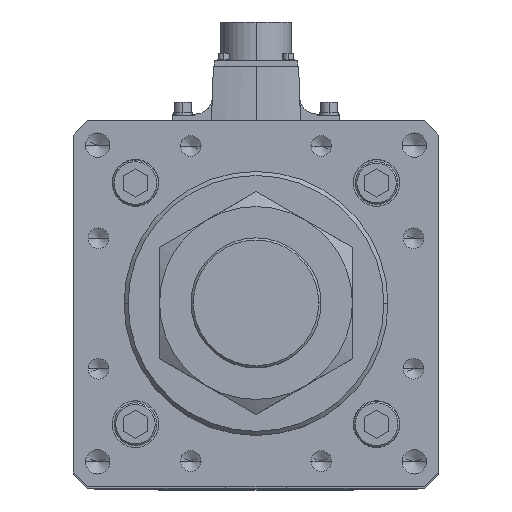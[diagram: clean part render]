
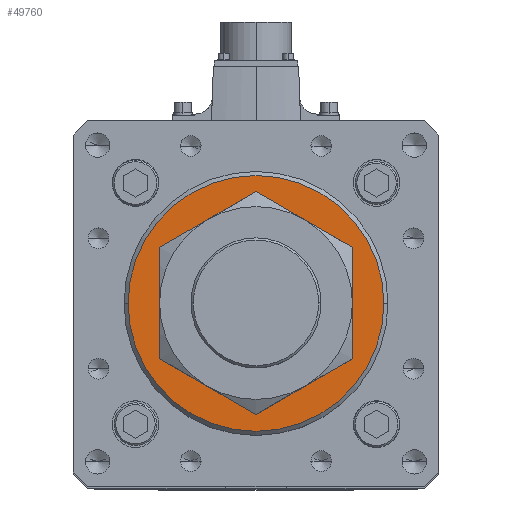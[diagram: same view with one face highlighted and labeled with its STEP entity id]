
A CAD part, top view. The second image highlights one B-rep face of the part: STEP entity #49760.
In plain terms, the highlighted planar face has unit normal (0, 0, 1).
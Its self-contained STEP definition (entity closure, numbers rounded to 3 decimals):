
#202 = PLANE ( 'NONE',  #14664 ) ;
#645 = CARTESIAN_POINT ( 'NONE',  ( 0., 0., 662. ) ) ;
#4162 = AXIS2_PLACEMENT_3D ( 'NONE', #34482, #12843, #26123 ) ;
#4764 = EDGE_LOOP ( 'NONE', ( #30270, #21920 ) ) ;
#5547 = CARTESIAN_POINT ( 'NONE',  ( -63., 0., 662. ) ) ;
#7302 = FACE_OUTER_BOUND ( 'NONE', #4764, .T. ) ;
#12222 = VERTEX_POINT ( 'NONE', #37838 ) ;
#12307 = CIRCLE ( 'NONE', #21907, 63. ) ;
#12843 = DIRECTION ( 'NONE',  ( 0., 0., 1. ) ) ;
#14019 = CARTESIAN_POINT ( 'NONE',  ( 0., 0., 662. ) ) ;
#14664 = AXIS2_PLACEMENT_3D ( 'NONE', #47216, #21885, #39218 ) ;
#17311 = FACE_BOUND ( 'NONE', #20727, .T. ) ;
#17456 = EDGE_CURVE ( 'NONE', #38801, #12222, #12307, .T. ) ;
#18320 = DIRECTION ( 'NONE',  ( 0., 0., -1. ) ) ;
#18376 = DIRECTION ( 'NONE',  ( 0., 0., -1. ) ) ;
#20727 = EDGE_LOOP ( 'NONE', ( #25713, #39552 ) ) ;
#21435 = VERTEX_POINT ( 'NONE', #24562 ) ;
#21885 = DIRECTION ( 'NONE',  ( 0., 0., 1. ) ) ;
#21907 = AXIS2_PLACEMENT_3D ( 'NONE', #22551, #52494, #27402 ) ;
#21920 = ORIENTED_EDGE ( 'NONE', *, *, #30320, .T. ) ;
#22551 = CARTESIAN_POINT ( 'NONE',  ( 0., 0., 662. ) ) ;
#24367 = VERTEX_POINT ( 'NONE', #36660 ) ;
#24562 = CARTESIAN_POINT ( 'NONE',  ( 40.5, 0., 662. ) ) ;
#25713 = ORIENTED_EDGE ( 'NONE', *, *, #47792, .T. ) ;
#26044 = CIRCLE ( 'NONE', #4162, 63. ) ;
#26123 = DIRECTION ( 'NONE',  ( 1., 0., 0. ) ) ;
#27402 = DIRECTION ( 'NONE',  ( 1., 0., 0. ) ) ;
#30270 = ORIENTED_EDGE ( 'NONE', *, *, #17456, .T. ) ;
#30320 = EDGE_CURVE ( 'NONE', #12222, #38801, #26044, .T. ) ;
#34342 = AXIS2_PLACEMENT_3D ( 'NONE', #645, #18376, #48188 ) ;
#34482 = CARTESIAN_POINT ( 'NONE',  ( 0., 0., 662. ) ) ;
#36660 = CARTESIAN_POINT ( 'NONE',  ( -40.5, 0., 662. ) ) ;
#37838 = CARTESIAN_POINT ( 'NONE',  ( 63., 0., 662. ) ) ;
#38801 = VERTEX_POINT ( 'NONE', #5547 ) ;
#39218 = DIRECTION ( 'NONE',  ( 1., 0., 0. ) ) ;
#39552 = ORIENTED_EDGE ( 'NONE', *, *, #43554, .T. ) ;
#43554 = EDGE_CURVE ( 'NONE', #24367, #21435, #46276, .T. ) ;
#44988 = AXIS2_PLACEMENT_3D ( 'NONE', #14019, #18320, #48138 ) ;
#46276 = CIRCLE ( 'NONE', #34342, 40.5 ) ;
#47216 = CARTESIAN_POINT ( 'NONE',  ( 0., 0., 662. ) ) ;
#47792 = EDGE_CURVE ( 'NONE', #21435, #24367, #51234, .T. ) ;
#48138 = DIRECTION ( 'NONE',  ( 1., 0., 0. ) ) ;
#48188 = DIRECTION ( 'NONE',  ( 1., 0., 0. ) ) ;
#49760 = ADVANCED_FACE ( 'NONE', ( #17311, #7302 ), #202, .T. ) ;
#51234 = CIRCLE ( 'NONE', #44988, 40.5 ) ;
#52494 = DIRECTION ( 'NONE',  ( 0., 0., 1. ) ) ;
